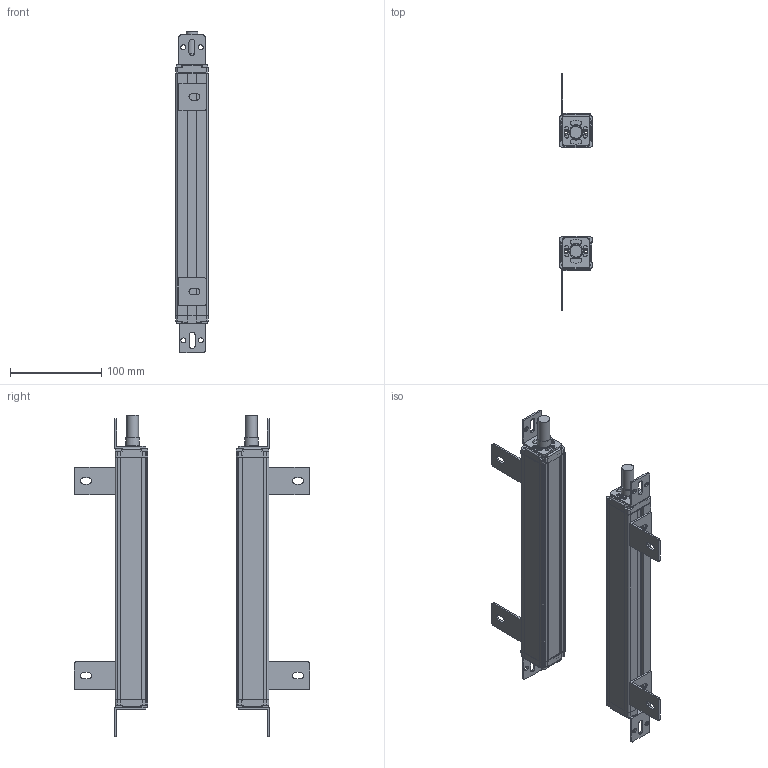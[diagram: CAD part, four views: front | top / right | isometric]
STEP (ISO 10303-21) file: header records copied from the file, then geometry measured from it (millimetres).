
FILE_DESCRIPTION(/* description */ (''),/* implementation_level */ '2;1');
FILE_NAME(/* name */ '2410_35X35_stp_stp.stp',/* time_stamp */ '2023-09-18T17:08:29+08:00',/* author */ (''),/* organization */ (''),/* preprocessor_version */ 'ST-DEVELOPER v16.7',/* originating_system */ 'SIEMENS PLM Software NX 12.0',/* authorisation */ '');
FILE_SCHEMA (('AP203_CONFIGURATION_CONTROLLED_3D_DESIGN_OF_MECHANICAL_PARTS_AND_ASSEMBLIES_MIM_LF { 1 0 10303 403 2 1 2}'));
Length unit declared in the file: millimetre
Products named in the file (1): 0420_35X35_stp_stp
Bounding box: 35.41 x 258.01 x 351.6 mm (x, y, z)
Volume: 313483.9 mm3; surface area: 244970.3 mm2
Topology: 28 solids, 28 shells, 1182 faces, 3360 edges, 2260 vertices
Faces by surface type: plane 658, cylinder 464, cone 60
Full cylindrical faces by diameter (mm): 3.2 x8, 6 x24, 13 x2, 14.4 x2, 15 x2
Entity records: 39055 total; most frequent: DIRECTION 6832, CARTESIAN_POINT 6745, ORIENTED_EDGE 6612, EDGE_CURVE 3306, AXIS2_PLACEMENT_3D 2347, VERTEX_POINT 2244, LINE 2138, VECTOR 2138
